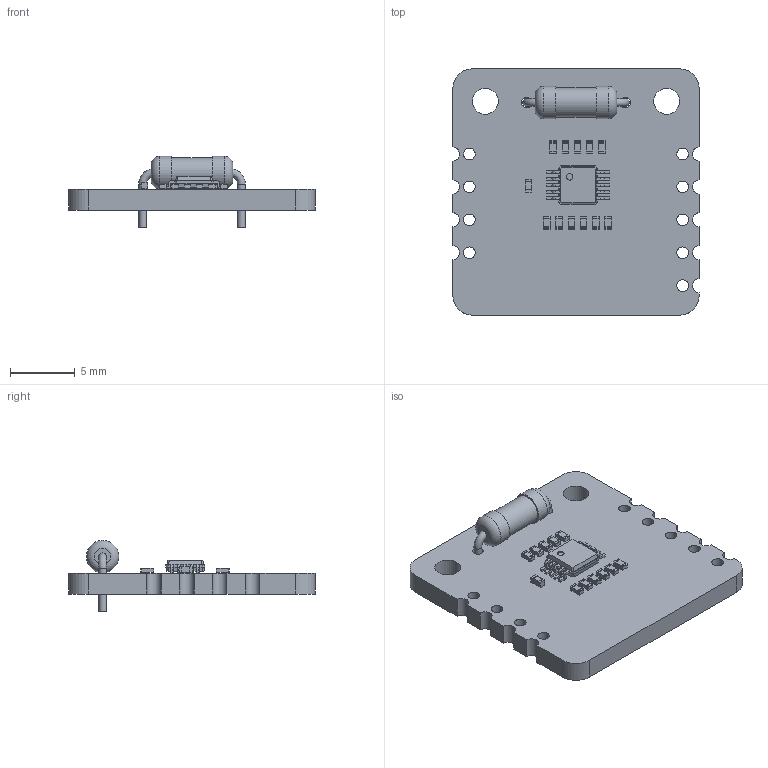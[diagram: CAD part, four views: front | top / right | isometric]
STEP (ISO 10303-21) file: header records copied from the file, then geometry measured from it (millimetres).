
FILE_DESCRIPTION(('KiCad electronic assembly'),'2;1');
FILE_NAME('[DFR1184]Gravity_2-Channel 0-10V ADC Module (V0.0.1).step', '2025-02-25T11:24:22',('Pcbnew'),('Kicad'), 'Open CASCADE STEP processor 7.8','KiCad to STEP converter','Unknown' );
FILE_SCHEMA(('AUTOMOTIVE_DESIGN { 1 0 10303 214 1 1 1 1 }'));
Length unit declared in the file: millimetre
Products named in the file (10): [DFR1184]Gravity_2-Channel 0-10V ADC Module (V0.0.1) 1; R_0402_1005Metric; R_Axial_DIN0207_L6.3mm_D2.5mm_P7.62mm_Horizontal; R_Axial_DIN0207_L63mm_D25mm_P762mm_Horizontal; MSOP-10_3x3mm_P0.5mm; MSOP_10_3x3mm_P05mm; C_0402_1005Metric; [DFR1185][M027.00938](V1.0.0)_PCB
Assembly tree (19 placements, depth 3):
  [DFR1184]Gravity_2-Channel 0-10V ADC Module (V0.0.1) 1
    R_0402_1005Metric  x11
      R_0402_1005Metric
    R_Axial_DIN0207_L6.3mm_D2.5mm_P7.62mm_Horizontal
      R_Axial_DIN0207_L63mm_D25mm_P762mm_Horizontal
    MSOP-10_3x3mm_P0.5mm
      MSOP_10_3x3mm_P05mm
    C_0402_1005Metric
      C_0402_1005Metric
    [DFR1185][M027.00938](V1.0.0)_PCB
Bounding box: 19 x 19 x 5.5 mm (x, y, z)
Volume: 586.6 mm3; surface area: 1011.2 mm2
Topology: 15 solids, 15 shells, 556 faces, 1445 edges, 926 vertices
Faces by surface type: plane 346, cylinder 172, bspline 34, torus 4
Full cylindrical faces by diameter (mm): 0.5 x1, 0.6 x2, 0.8 x2, 0.9 x9, 2 x2, 2.25 x1, 2.5 x2
Entity records: 11321 total; most frequent: CARTESIAN_POINT 2033, ORIENTED_EDGE 1530, DIRECTION 1485, EDGE_CURVE 765, LINE 541, VECTOR 541, VERTEX_POINT 486, AXIS2_PLACEMENT_3D 472
